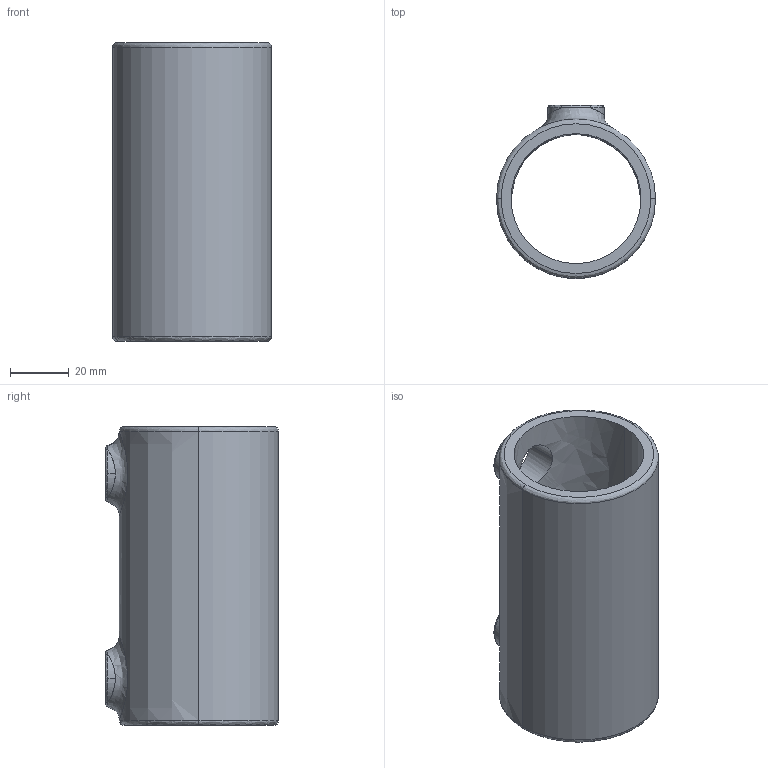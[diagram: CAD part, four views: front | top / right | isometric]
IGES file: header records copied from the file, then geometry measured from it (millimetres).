
Global section: file name: C:\Documents and Settings\Administrator\Desktop\Transfer Temp\14-7.igs; native system: AutoDesk Inventor R2.0 ; preprocessor: AutoDesk Inventor Iges Exporter R2.0; author: No Author specified; organization: No Organization specified; date: 20011231.175841; units: inch
Bounding box: 54.1 x 58.8 x 101.6 mm (x, y, z)
Surface area: 33385.7 mm2 (no closed solid volume)
Topology: 0 solids, 0 shells, 34 faces, 154 edges, 152 vertices
Faces by surface type: revolution 18, bspline 16
